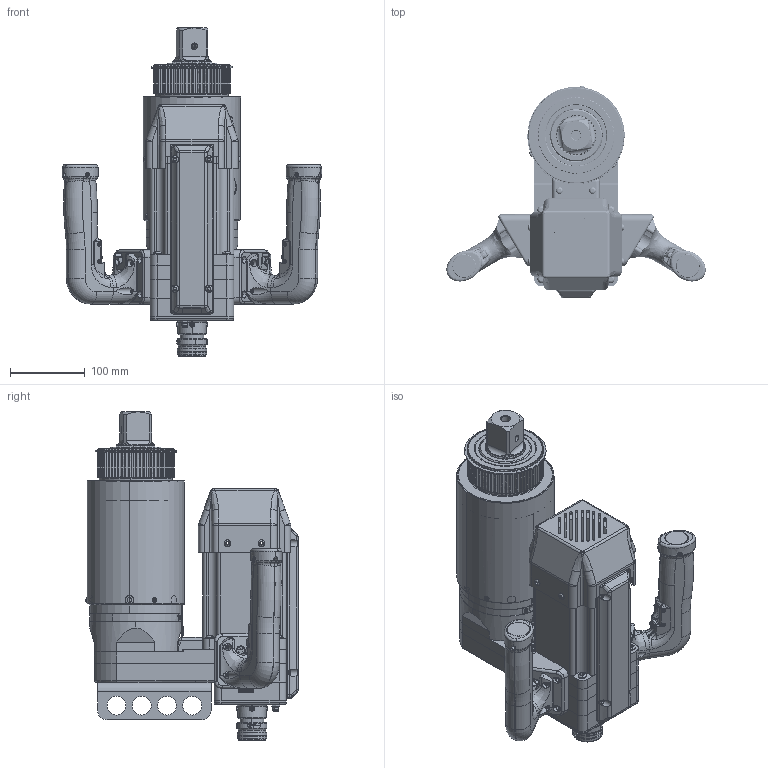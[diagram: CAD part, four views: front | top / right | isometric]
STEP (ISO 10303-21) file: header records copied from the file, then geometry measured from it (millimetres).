
FILE_DESCRIPTION (( 'STEP AP214' ), '1' );
FILE_NAME ('AEJ4U9X12000BDL.STEP', '2021-10-27T16:09:53', ( '' ), ( '' ), 'SwSTEP 2.0', 'SolidWorks 2021', '' );
FILE_SCHEMA (( 'AUTOMOTIVE_DESIGN' ));
Length unit declared in the file: inch
Products named in the file (1): AEJ4U9X12000BDL
Bounding box: 347.9 x 284.79 x 440.6 mm (x, y, z)
Surface area: 727539 mm2 (no closed solid volume)
Topology: 0 solids, 219 shells, 2245 faces, 9762 edges, 7439 vertices
Faces by surface type: cylinder 790, plane 570, bspline 409, torus 271, cone 169, sphere 36
Entity records: 245669 total; most frequent: CARTESIAN_POINT 143965, ORIENTED_EDGE 13772, DIRECTION 13455, EDGE_CURVE 9709, VERTEX_POINT 7439, AXIS2_PLACEMENT_3D 4807, LINE 3841, VECTOR 3841
